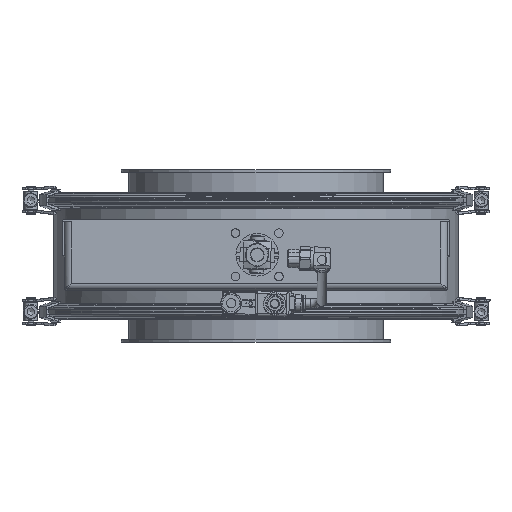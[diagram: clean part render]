
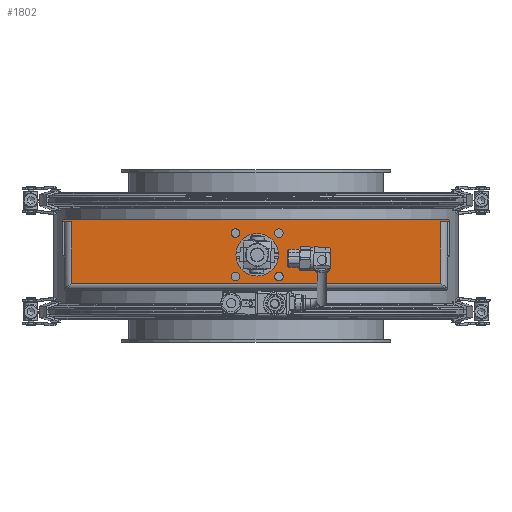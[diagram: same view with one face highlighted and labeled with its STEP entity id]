
A CAD part, left-side view. The second image highlights one B-rep face of the part: STEP entity #1802.
In plain terms, the highlighted planar face has unit normal (-1, 0, 0).
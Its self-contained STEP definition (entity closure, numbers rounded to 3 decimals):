
#859=CARTESIAN_POINT('',(-633.125,-161.,-24.));
#860=VERTEX_POINT('',#859);
#900=CARTESIAN_POINT('',(-633.125,-161.,30.));
#901=VERTEX_POINT('',#900);
#909=CARTESIAN_POINT('',(-633.125,-161.,30.));
#910=DIRECTION('',(0.0,0.0,-1.0));
#911=VECTOR('',#910,54.0);
#912=LINE('',#909,#911);
#913=EDGE_CURVE('',#901,#860,#912,.T.);
#965=CARTESIAN_POINT('',(-633.125,161.,-24.));
#966=VERTEX_POINT('',#965);
#990=CARTESIAN_POINT('',(-633.125,-161.,-24.));
#991=DIRECTION('',(0.0,1.0,0.0));
#992=VECTOR('',#991,322.);
#993=LINE('',#990,#992);
#994=EDGE_CURVE('',#860,#966,#993,.T.);
#1012=CARTESIAN_POINT('',(-633.125,161.,30.));
#1013=VERTEX_POINT('',#1012);
#1014=CARTESIAN_POINT('',(-633.125,161.,-24.));
#1015=DIRECTION('',(0.0,0.0,1.0));
#1016=VECTOR('',#1015,54.);
#1017=LINE('',#1014,#1016);
#1018=EDGE_CURVE('',#966,#1013,#1017,.T.);
#1261=CARTESIAN_POINT('',(-633.125,18.,-14.25));
#1262=VERTEX_POINT('',#1261);
#1263=CARTESIAN_POINT('',(-633.125,18.,-18.0));
#1264=DIRECTION('',(1.0,0.0,0.0));
#1265=DIRECTION('',(0.0,0.0,1.0));
#1266=AXIS2_PLACEMENT_3D('',#1263,#1264,#1265);
#1267=CIRCLE('',#1266,3.75);
#1268=EDGE_CURVE('',#1262,#1262,#1267,.T.);
#1310=CARTESIAN_POINT('',(-633.125,-20.,23.75));
#1311=VERTEX_POINT('',#1310);
#1312=CARTESIAN_POINT('',(-633.125,-20.,20.0));
#1313=DIRECTION('',(1.0,0.0,0.0));
#1314=DIRECTION('',(0.0,0.0,1.0));
#1315=AXIS2_PLACEMENT_3D('',#1312,#1313,#1314);
#1316=CIRCLE('',#1315,3.75);
#1317=EDGE_CURVE('',#1311,#1311,#1316,.T.);
#1359=CARTESIAN_POINT('',(-633.125,-20.,-14.25));
#1360=VERTEX_POINT('',#1359);
#1361=CARTESIAN_POINT('',(-633.125,-20.,-18.0));
#1362=DIRECTION('',(1.0,0.0,0.0));
#1363=DIRECTION('',(0.0,0.0,1.0));
#1364=AXIS2_PLACEMENT_3D('',#1361,#1362,#1363);
#1365=CIRCLE('',#1364,3.75);
#1366=EDGE_CURVE('',#1360,#1360,#1365,.T.);
#1408=CARTESIAN_POINT('',(-633.125,18.,23.75));
#1409=VERTEX_POINT('',#1408);
#1410=CARTESIAN_POINT('',(-633.125,18.,20.0));
#1411=DIRECTION('',(1.0,0.0,0.0));
#1412=DIRECTION('',(0.0,0.0,1.0));
#1413=AXIS2_PLACEMENT_3D('',#1410,#1411,#1412);
#1414=CIRCLE('',#1413,3.75);
#1415=EDGE_CURVE('',#1409,#1409,#1414,.T.);
#1457=CARTESIAN_POINT('',(-633.125,-1.,19.5));
#1458=VERTEX_POINT('',#1457);
#1459=CARTESIAN_POINT('',(-633.125,-1.,1.));
#1460=DIRECTION('',(1.0,0.0,0.0));
#1461=DIRECTION('',(0.0,0.0,1.0));
#1462=AXIS2_PLACEMENT_3D('',#1459,#1460,#1461);
#1463=CIRCLE('',#1462,18.5);
#1464=EDGE_CURVE('',#1458,#1458,#1463,.T.);
#1505=CARTESIAN_POINT('',(-633.125,169.,30.0));
#1506=VERTEX_POINT('',#1505);
#1507=CARTESIAN_POINT('',(-633.125,169.,30.0));
#1508=DIRECTION('',(0.0,-1.0,0.0));
#1509=VECTOR('',#1508,8.);
#1510=LINE('',#1507,#1509);
#1511=EDGE_CURVE('',#1506,#1013,#1510,.T.);
#1709=CARTESIAN_POINT('',(-633.125,-167.,32.0));
#1710=VERTEX_POINT('',#1709);
#1711=CARTESIAN_POINT('',(-633.125,-169.,30.0));
#1712=VERTEX_POINT('',#1711);
#1713=CARTESIAN_POINT('',(-633.125,-167.,30.0));
#1714=DIRECTION('',(1.0,0.0,0.0));
#1715=DIRECTION('',(0.0,-0.707,0.707));
#1716=AXIS2_PLACEMENT_3D('',#1713,#1714,#1715);
#1717=CIRCLE('',#1716,2.);
#1718=EDGE_CURVE('',#1710,#1712,#1717,.T.);
#1754=CARTESIAN_POINT('',(-633.125,-169.,30.0));
#1755=DIRECTION('',(-1.0,0.0,0.0));
#1756=DIRECTION('',(0.0,0.0,1.0));
#1757=AXIS2_PLACEMENT_3D('',#1754,#1755,#1756);
#1758=PLANE('',#1757);
#1759=CARTESIAN_POINT('',(-633.125,-161.,30.0));
#1760=DIRECTION('',(0.0,-1.0,0.0));
#1761=VECTOR('',#1760,8.);
#1762=LINE('',#1759,#1761);
#1763=EDGE_CURVE('',#901,#1712,#1762,.T.);
#1764=ORIENTED_EDGE('',*,*,#1763,.T.);
#1765=ORIENTED_EDGE('',*,*,#1718,.F.);
#1766=CARTESIAN_POINT('',(-633.125,167.,32.0));
#1767=VERTEX_POINT('',#1766);
#1768=CARTESIAN_POINT('',(-633.125,-167.,32.0));
#1769=DIRECTION('',(0.0,1.0,0.0));
#1770=VECTOR('',#1769,334.0);
#1771=LINE('',#1768,#1770);
#1772=EDGE_CURVE('',#1710,#1767,#1771,.T.);
#1773=ORIENTED_EDGE('',*,*,#1772,.T.);
#1774=CARTESIAN_POINT('',(-633.125,167.,30.0));
#1775=DIRECTION('',(1.0,0.0,0.0));
#1776=DIRECTION('',(0.0,0.707,0.707));
#1777=AXIS2_PLACEMENT_3D('',#1774,#1775,#1776);
#1778=CIRCLE('',#1777,2.);
#1779=EDGE_CURVE('',#1506,#1767,#1778,.T.);
#1780=ORIENTED_EDGE('',*,*,#1779,.F.);
#1781=ORIENTED_EDGE('',*,*,#1511,.T.);
#1782=ORIENTED_EDGE('',*,*,#1018,.F.);
#1783=ORIENTED_EDGE('',*,*,#994,.F.);
#1784=ORIENTED_EDGE('',*,*,#913,.F.);
#1785=EDGE_LOOP('',(#1764,#1765,#1773,#1780,#1781,#1782,#1783,#1784));
#1786=FACE_OUTER_BOUND('',#1785,.T.);
#1787=ORIENTED_EDGE('',*,*,#1268,.T.);
#1788=EDGE_LOOP('',(#1787));
#1789=FACE_BOUND('',#1788,.T.);
#1790=ORIENTED_EDGE('',*,*,#1317,.T.);
#1791=EDGE_LOOP('',(#1790));
#1792=FACE_BOUND('',#1791,.T.);
#1793=ORIENTED_EDGE('',*,*,#1366,.T.);
#1794=EDGE_LOOP('',(#1793));
#1795=FACE_BOUND('',#1794,.T.);
#1796=ORIENTED_EDGE('',*,*,#1415,.T.);
#1797=EDGE_LOOP('',(#1796));
#1798=FACE_BOUND('',#1797,.T.);
#1799=ORIENTED_EDGE('',*,*,#1464,.T.);
#1800=EDGE_LOOP('',(#1799));
#1801=FACE_BOUND('',#1800,.T.);
#1802=ADVANCED_FACE('',(#1786,#1789,#1792,#1795,#1798,#1801),#1758,.T.);
